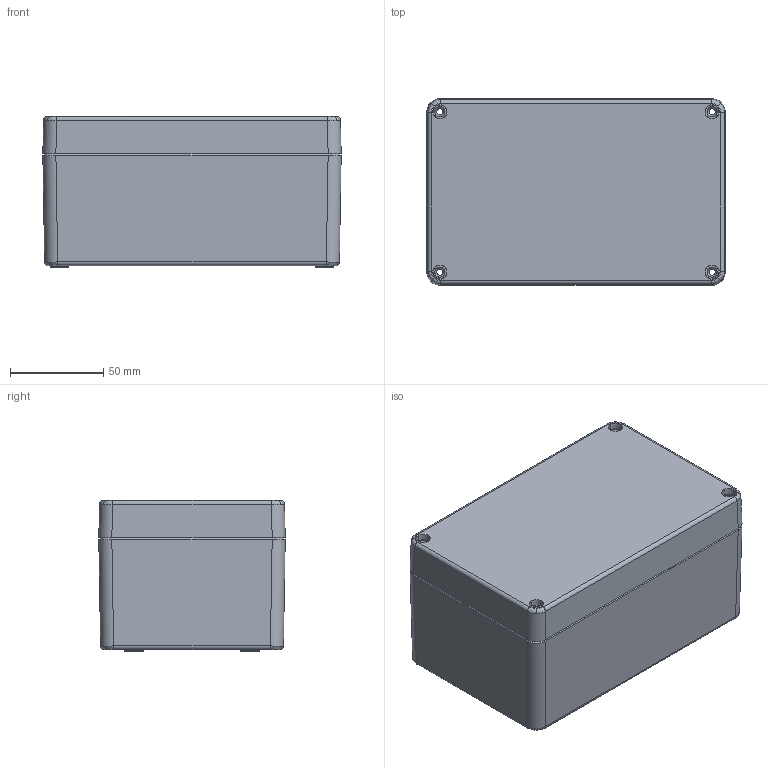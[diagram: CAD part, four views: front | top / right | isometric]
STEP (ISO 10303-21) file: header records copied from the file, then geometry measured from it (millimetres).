
FILE_DESCRIPTION (( 'STEP AP203' ), '1' );
FILE_NAME ('BB042.STEP', '2024-12-26T15:14:54', ( '' ), ( '' ), 'SwSTEP 2.0', 'SolidWorks 2019', '' );
FILE_SCHEMA (( 'CONFIG_CONTROL_DESIGN' ));
Length unit declared in the file: millimetre
Products named in the file (3): 01156_160x100x81_stp.stp; lid_160x100x81_stp.stp; BB042
Assembly tree (2 placements, depth 2):
  BB042
    01156_160x100x81_stp.stp
    lid_160x100x81_stp.stp
Bounding box: 160 x 100 x 81 mm (x, y, z)
Volume: 291386.5 mm3; surface area: 150355.6 mm2
Topology: 2 solids, 2 shells, 1061 faces, 2655 edges, 1682 vertices
Faces by surface type: plane 491, cylinder 269, cone 178, bspline 73, torus 50
Entity records: 37735 total; most frequent: CARTESIAN_POINT 13036, ORIENTED_EDGE 5274, DIRECTION 4719, EDGE_CURVE 2637, AXIS2_PLACEMENT_3D 1685, VERTEX_POINT 1682, LINE 1349, VECTOR 1349
